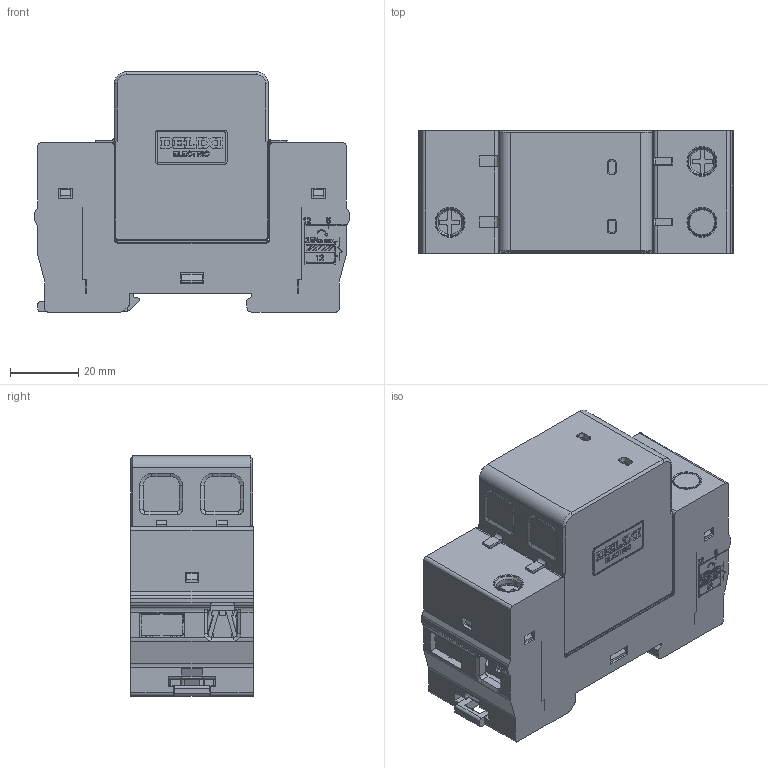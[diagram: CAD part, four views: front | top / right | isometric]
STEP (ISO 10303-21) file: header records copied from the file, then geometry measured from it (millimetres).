
FILE_DESCRIPTION((''),'2;1');
FILE_NAME('1P120_ASM_ASM','2024-01-17T',('linxiao.guan'),(''),'PRO/ENGINEER BY PARAMETRIC TECHNOLOGY CORPORATION, 2015440','PRO/ENGINEER BY PARAMETRIC TECHNOLOGY CORPORATION, 2015440','');
FILE_SCHEMA(('CONFIG_CONTROL_DESIGN'));
Products named in the file (7): MANIFOLD_SOLID_BREP_121581_AF0; MANIFOLD_SOLID_BREP_122693; MANIFOLD_SOLID_BREP_122781; MANIFOLD_SOLID_BREP_122869; 1P120_ASM_SW0001_1_AF0_ASM; 8005034000_1; 1P120_ASM_ASM
Assembly tree (6 placements, depth 3):
  1P120_ASM_ASM
    1P120_ASM_SW0001_1_AF0_ASM
      MANIFOLD_SOLID_BREP_121581_AF0
      MANIFOLD_SOLID_BREP_122693
      MANIFOLD_SOLID_BREP_122781
      MANIFOLD_SOLID_BREP_122869
    8005034000_1
Bounding box: 92 x 35.8 x 70.22 mm (x, y, z)
Volume: 57642.2 mm3; surface area: 72211.7 mm2
Topology: 9 solids, 9 shells, 3610 faces, 10452 edges, 6900 vertices
Faces by surface type: plane 3085, cylinder 412, torus 57, cone 50, bspline 6
Entity records: 118257 total; most frequent: CARTESIAN_POINT 22446, ORIENTED_EDGE 20904, DIRECTION 18386, EDGE_CURVE 10452, VECTOR 9128, LINE 9128, VERTEX_POINT 6900, AXIS2_PLACEMENT_3D 4629
